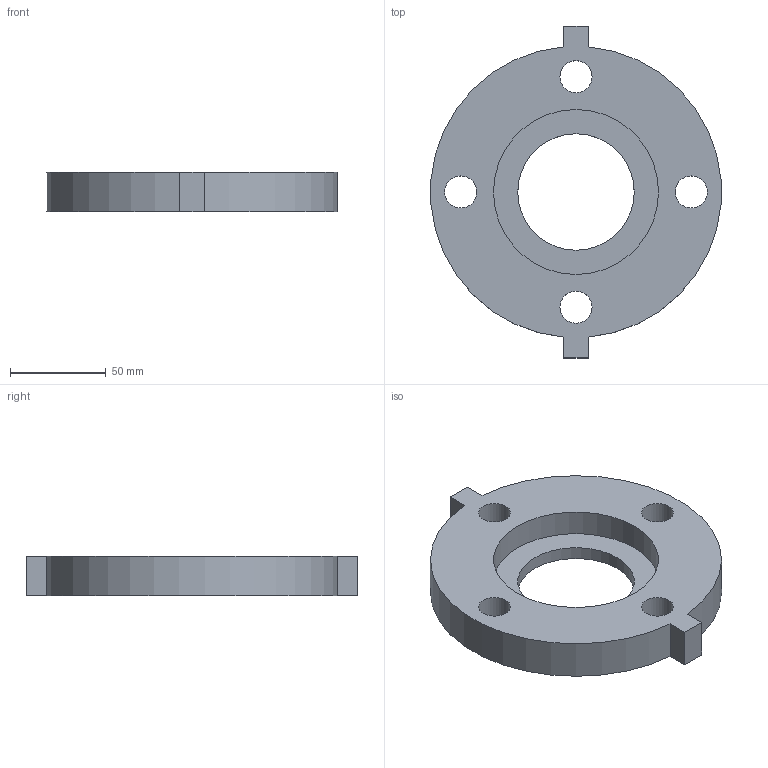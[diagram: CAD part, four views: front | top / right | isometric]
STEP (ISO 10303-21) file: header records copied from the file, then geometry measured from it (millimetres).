
FILE_DESCRIPTION(/* description */ ('VIC FLANGE ADAPTER STYLE 441','CAx-IF Rec.Pracs.---Representation and Presentation of Product Manufacturing Information (PMI)---4.0---2014-10-13'),/* implementation_level */ '2;1');
FILE_NAME(/* name */ 'C:\Users\kkamble\AppData\Roaming\Autodesk\ApplicationPlugins\Back Up\Victaulic_SS-OGS_Flange Adapter_CL 150_Style 441 (OGSxFLG)\Victaulic_SS-OGS_Flange Adapter_CL 150_Style 441 (OGSxFLG)_2 (50).stp',/* time_stamp */ '2020-08-27T09:29:36+06:00',/* author */ ('mchristi'),/* organization */ ('Victaulic'),/* preprocessor_version */ 'ST-DEVELOPER v17.2',/* originating_system */ 'Autodesk Inventor 2019',/* authorisation */ '');
FILE_SCHEMA (('AP242_MANAGED_MODEL_BASED_3D_ENGINEERING_MIM_LF { 1 0 10303 442 1 1 4 }'));
Length unit declared in the file: inch
Products named in the file (1): 441-02.0
Bounding box: 151.82 x 173.74 x 20.83 mm (x, y, z)
Volume: 265638 mm3; surface area: 49793 mm2
Topology: 1 solids, 1 shells, 17 faces, 42 edges, 28 vertices
Faces by surface type: plane 9, cylinder 8
Full cylindrical faces by diameter (mm): 16.764 x4, 60.96 x1, 86.36 x1
Entity records: 681 total; most frequent: DIRECTION 120, CARTESIAN_POINT 105, ORIENTED_EDGE 84, AXIS2_PLACEMENT_3D 47, EDGE_CURVE 42, EDGE_LOOP 28, VERTEX_POINT 28, LINE 26
